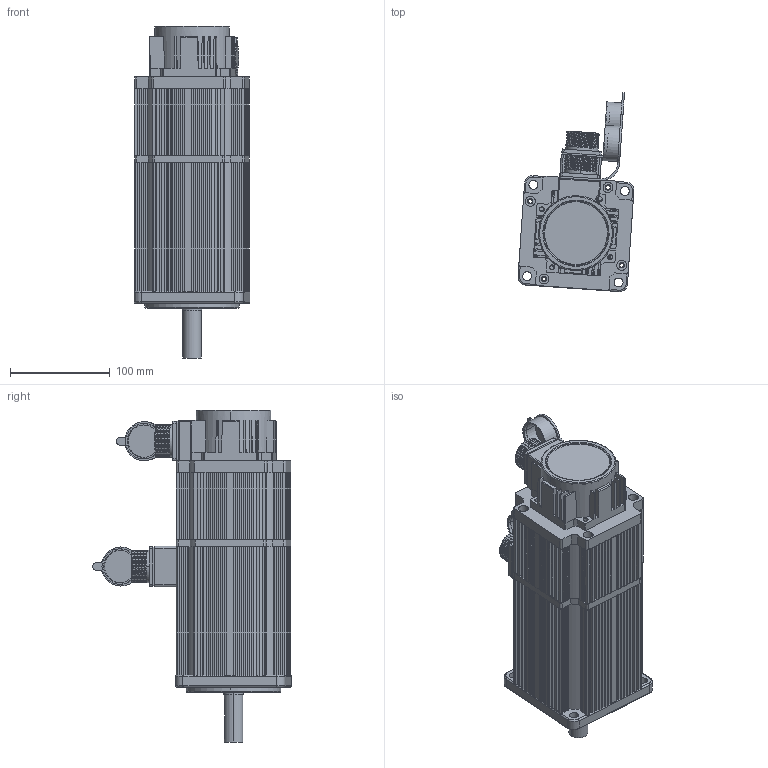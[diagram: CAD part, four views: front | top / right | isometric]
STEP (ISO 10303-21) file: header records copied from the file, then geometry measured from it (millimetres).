
FILE_DESCRIPTION (( 'STEP AP203' ), '1' );
FILE_NAME ('110-5N.M抱闸.STEP', '2019-01-10T02:43:05', ( '微软用户' ), ( '微软中国' ), 'SwSTEP 2.0', 'SolidWorks 2016', '' );
FILE_SCHEMA (( 'CONFIG_CONTROL_DESIGN' ));
Length unit declared in the file: millimetre
Products named in the file (13): 130瑤脣價釱; 130瑤脣々菜; 130 4郋瑤脣; 15郋瑤脣; 110儂褲; 110-5N.M惕掅; 110惕掅綴裔; 110 5N.M惕掅粣; 110萇棠惕掅儂褲; 6304; 110綴傷裔; 110ヶ傷裔; 晤鎢ん欶
Assembly tree (13 placements, depth 2):
  110-5N.M惕掅
    110 5N.M惕掅粣
    6304
    110ヶ傷裔
    110儂褲
    110惕掅綴裔
    110萇棠惕掅儂褲
    110綴傷裔
    晤鎢ん欶
    130瑤脣價釱
    130瑤脣々菜  x2
    130 4郋瑤脣
    15郋瑤脣
Bounding box: 116.24 x 199.52 x 333 mm (x, y, z)
Volume: 979876.3 mm3; surface area: 490788.2 mm2
Topology: 14 solids, 14 shells, 1756 faces, 4744 edges, 3074 vertices
Faces by surface type: plane 906, cylinder 700, torus 67, cone 39, sphere 36, bspline 8
Entity records: 58822 total; most frequent: CARTESIAN_POINT 14110, ORIENTED_EDGE 9096, DIRECTION 9045, EDGE_CURVE 4548, AXIS2_PLACEMENT_3D 3109, VERTEX_POINT 2974, VECTOR 2827, LINE 2827
